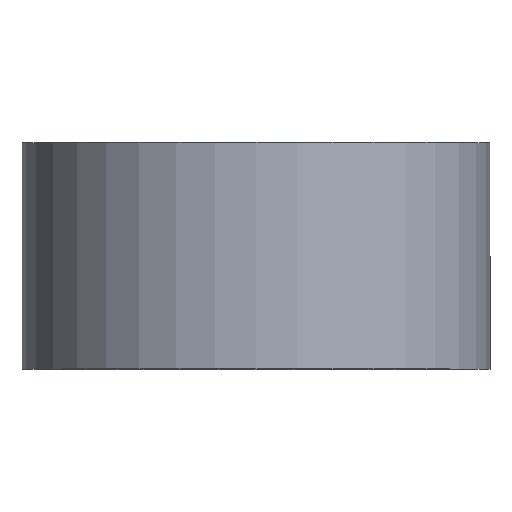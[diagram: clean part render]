
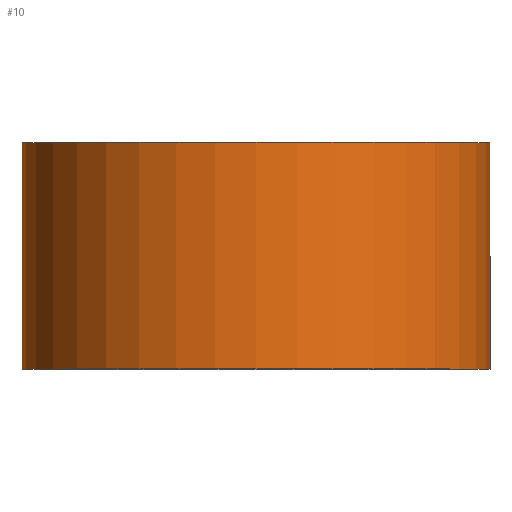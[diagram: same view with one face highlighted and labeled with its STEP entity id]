
A CAD part, top view. The second image highlights one B-rep face of the part: STEP entity #10.
In plain terms, the highlighted cylindrical face has radius 31 mm (diameter 62 mm), a partial arc.
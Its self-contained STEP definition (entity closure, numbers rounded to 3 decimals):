
#3 = LINE ( 'NONE', #92, #273 ) ;
#10 = ADVANCED_FACE ( 'NONE', ( #204 ), #82, .T. ) ;
#14 = EDGE_LOOP ( 'NONE', ( #155, #34, #278, #22 ) ) ;
#22 = ORIENTED_EDGE ( 'NONE', *, *, #49, .F. ) ;
#23 = CARTESIAN_POINT ( 'NONE',  ( 0., 0., 0. ) ) ;
#28 = CARTESIAN_POINT ( 'NONE',  ( 31., 0., 0. ) ) ;
#34 = ORIENTED_EDGE ( 'NONE', *, *, #148, .T. ) ;
#49 = EDGE_CURVE ( 'NONE', #193, #221, #182, .T. ) ;
#64 = DIRECTION ( 'NONE',  ( -1., 0., 0. ) ) ;
#70 = CARTESIAN_POINT ( 'NONE',  ( 31., 30., 0. ) ) ;
#79 = AXIS2_PLACEMENT_3D ( 'NONE', #207, #254, #258 ) ;
#82 = CYLINDRICAL_SURFACE ( 'NONE', #250, 31. ) ;
#92 = CARTESIAN_POINT ( 'NONE',  ( 31., 0., 0. ) ) ;
#105 = DIRECTION ( 'NONE',  ( 0., 1., 0. ) ) ;
#123 = DIRECTION ( 'NONE',  ( -1., 0., 0. ) ) ;
#148 = EDGE_CURVE ( 'NONE', #199, #195, #3, .T. ) ;
#153 = VECTOR ( 'NONE', #156, 1000. ) ;
#155 = ORIENTED_EDGE ( 'NONE', *, *, #292, .T. ) ;
#156 = DIRECTION ( 'NONE',  ( 0., 1., 0. ) ) ;
#166 = CARTESIAN_POINT ( 'NONE',  ( -31., 30., 0. ) ) ;
#182 = LINE ( 'NONE', #275, #153 ) ;
#193 = VERTEX_POINT ( 'NONE', #208 ) ;
#195 = VERTEX_POINT ( 'NONE', #70 ) ;
#198 = AXIS2_PLACEMENT_3D ( 'NONE', #289, #105, #123 ) ;
#199 = VERTEX_POINT ( 'NONE', #28 ) ;
#204 = FACE_OUTER_BOUND ( 'NONE', #14, .T. ) ;
#206 = EDGE_CURVE ( 'NONE', #221, #195, #235, .T. ) ;
#207 = CARTESIAN_POINT ( 'NONE',  ( 0., 30., 0. ) ) ;
#208 = CARTESIAN_POINT ( 'NONE',  ( -31., 0., 0. ) ) ;
#219 = CIRCLE ( 'NONE', #198, 31. ) ;
#221 = VERTEX_POINT ( 'NONE', #166 ) ;
#235 = CIRCLE ( 'NONE', #79, 31. ) ;
#250 = AXIS2_PLACEMENT_3D ( 'NONE', #23, #298, #64 ) ;
#254 = DIRECTION ( 'NONE',  ( 0., 1., 0. ) ) ;
#256 = DIRECTION ( 'NONE',  ( 0., 1., 0. ) ) ;
#258 = DIRECTION ( 'NONE',  ( -1., 0., 0. ) ) ;
#273 = VECTOR ( 'NONE', #256, 1000. ) ;
#275 = CARTESIAN_POINT ( 'NONE',  ( -31., 0., 0. ) ) ;
#278 = ORIENTED_EDGE ( 'NONE', *, *, #206, .F. ) ;
#289 = CARTESIAN_POINT ( 'NONE',  ( 0., 0., 0. ) ) ;
#292 = EDGE_CURVE ( 'NONE', #193, #199, #219, .T. ) ;
#298 = DIRECTION ( 'NONE',  ( 0., 1., 0. ) ) ;
